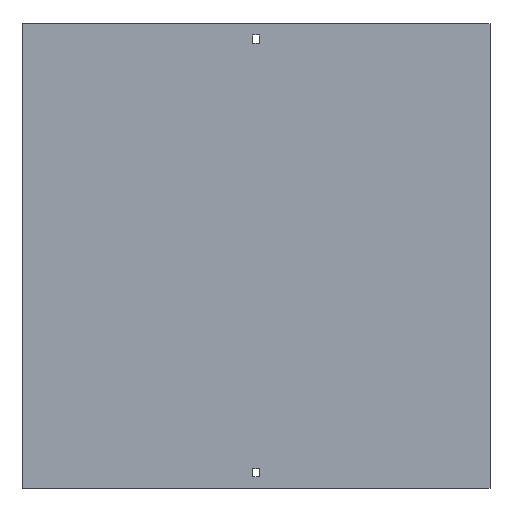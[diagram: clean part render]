
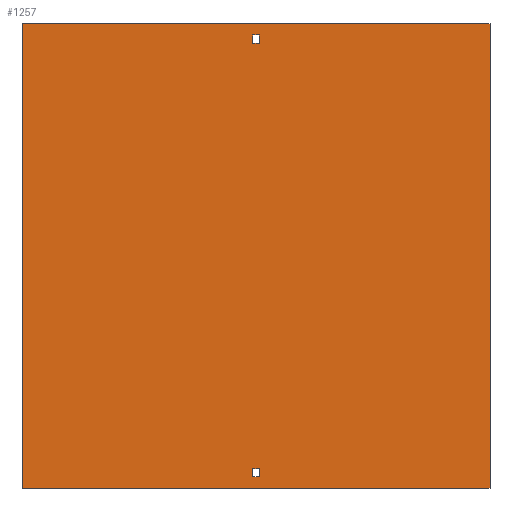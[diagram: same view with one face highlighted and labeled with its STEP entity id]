
A CAD part, front view. The second image highlights one B-rep face of the part: STEP entity #1257.
In plain terms, the highlighted planar face has unit normal (0, -1, 0).
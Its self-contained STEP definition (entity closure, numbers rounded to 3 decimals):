
#17 = VERTEX_POINT ( 'NONE', #1354 ) ;
#19 = CARTESIAN_POINT ( 'NONE',  ( -3.25, 0., 229. ) ) ;
#33 = VERTEX_POINT ( 'NONE', #1608 ) ;
#50 = EDGE_CURVE ( 'NONE', #1470, #1179, #1107, .T. ) ;
#66 = LINE ( 'NONE', #715, #1154 ) ;
#79 = VECTOR ( 'NONE', #1216, 1000. ) ;
#113 = VERTEX_POINT ( 'NONE', #1636 ) ;
#134 = ORIENTED_EDGE ( 'NONE', *, *, #50, .T. ) ;
#138 = DIRECTION ( 'NONE',  ( -1., 0., 0. ) ) ;
#150 = PLANE ( 'NONE',  #696 ) ;
#157 = ORIENTED_EDGE ( 'NONE', *, *, #985, .F. ) ;
#162 = VECTOR ( 'NONE', #1295, 1000. ) ;
#172 = DIRECTION ( 'NONE',  ( 0., 0., -1. ) ) ;
#188 = VECTOR ( 'NONE', #138, 1000. ) ;
#195 = VERTEX_POINT ( 'NONE', #410 ) ;
#200 = ORIENTED_EDGE ( 'NONE', *, *, #535, .F. ) ;
#220 = DIRECTION ( 'NONE',  ( 0., 0., -1. ) ) ;
#222 = VERTEX_POINT ( 'NONE', #886 ) ;
#230 = CARTESIAN_POINT ( 'NONE',  ( -252., 0., 250. ) ) ;
#235 = EDGE_CURVE ( 'NONE', #1179, #113, #383, .T. ) ;
#243 = DIRECTION ( 'NONE',  ( -1., 0., 0. ) ) ;
#269 = VECTOR ( 'NONE', #220, 1000. ) ;
#270 = ORIENTED_EDGE ( 'NONE', *, *, #1557, .F. ) ;
#285 = EDGE_CURVE ( 'NONE', #17, #983, #1314, .T. ) ;
#296 = CARTESIAN_POINT ( 'NONE',  ( 252., 0., -250. ) ) ;
#341 = ORIENTED_EDGE ( 'NONE', *, *, #1165, .F. ) ;
#357 = CARTESIAN_POINT ( 'NONE',  ( 3.25, 0., -229. ) ) ;
#362 = DIRECTION ( 'NONE',  ( -1., 0., 0. ) ) ;
#383 = LINE ( 'NONE', #528, #728 ) ;
#387 = LINE ( 'NONE', #775, #162 ) ;
#405 = DIRECTION ( 'NONE',  ( 0., 0., -1. ) ) ;
#410 = CARTESIAN_POINT ( 'NONE',  ( 252., 0., 250. ) ) ;
#422 = VERTEX_POINT ( 'NONE', #1525 ) ;
#459 = VECTOR ( 'NONE', #703, 1000. ) ;
#489 = EDGE_CURVE ( 'NONE', #1528, #422, #387, .T. ) ;
#494 = CARTESIAN_POINT ( 'NONE',  ( -3.25, 0., 238. ) ) ;
#498 = LINE ( 'NONE', #756, #1350 ) ;
#499 = CARTESIAN_POINT ( 'NONE',  ( 3.25, 0., -238. ) ) ;
#516 = EDGE_LOOP ( 'NONE', ( #1095, #1395, #134, #922 ) ) ;
#528 = CARTESIAN_POINT ( 'NONE',  ( -3.25, 0., -238. ) ) ;
#535 = EDGE_CURVE ( 'NONE', #222, #1528, #1448, .T. ) ;
#565 = VECTOR ( 'NONE', #405, 1000. ) ;
#603 = EDGE_CURVE ( 'NONE', #33, #1470, #1176, .T. ) ;
#628 = EDGE_LOOP ( 'NONE', ( #200, #664, #157, #894 ) ) ;
#650 = DIRECTION ( 'NONE',  ( 1., 0., 0. ) ) ;
#664 = ORIENTED_EDGE ( 'NONE', *, *, #896, .F. ) ;
#665 = VECTOR ( 'NONE', #172, 1000. ) ;
#696 = AXIS2_PLACEMENT_3D ( 'NONE', #230, #1000, #362 ) ;
#697 = LINE ( 'NONE', #1050, #79 ) ;
#703 = DIRECTION ( 'NONE',  ( 1., 0., 0. ) ) ;
#709 = EDGE_LOOP ( 'NONE', ( #1377, #341, #270, #1414 ) ) ;
#715 = CARTESIAN_POINT ( 'NONE',  ( -252., 0., 250. ) ) ;
#728 = VECTOR ( 'NONE', #243, 1000. ) ;
#753 = CARTESIAN_POINT ( 'NONE',  ( 252., 0., 250. ) ) ;
#756 = CARTESIAN_POINT ( 'NONE',  ( -252., 0., 250. ) ) ;
#775 = CARTESIAN_POINT ( 'NONE',  ( 3.25, 0., 238. ) ) ;
#864 = DIRECTION ( 'NONE',  ( 0., 0., -1. ) ) ;
#886 = CARTESIAN_POINT ( 'NONE',  ( -3.25, 0., 229. ) ) ;
#894 = ORIENTED_EDGE ( 'NONE', *, *, #489, .F. ) ;
#896 = EDGE_CURVE ( 'NONE', #1223, #222, #1052, .T. ) ;
#922 = ORIENTED_EDGE ( 'NONE', *, *, #235, .T. ) ;
#983 = VERTEX_POINT ( 'NONE', #296 ) ;
#985 = EDGE_CURVE ( 'NONE', #422, #1223, #1296, .T. ) ;
#1000 = DIRECTION ( 'NONE',  ( 0., 1., 0. ) ) ;
#1050 = CARTESIAN_POINT ( 'NONE',  ( -3.25, 0., -238. ) ) ;
#1052 = LINE ( 'NONE', #1304, #665 ) ;
#1095 = ORIENTED_EDGE ( 'NONE', *, *, #1413, .T. ) ;
#1106 = VECTOR ( 'NONE', #1324, 1000. ) ;
#1107 = LINE ( 'NONE', #499, #269 ) ;
#1119 = LINE ( 'NONE', #753, #565 ) ;
#1154 = VECTOR ( 'NONE', #864, 1000. ) ;
#1165 = EDGE_CURVE ( 'NONE', #195, #983, #1119, .T. ) ;
#1176 = LINE ( 'NONE', #1188, #1106 ) ;
#1179 = VERTEX_POINT ( 'NONE', #1508 ) ;
#1188 = CARTESIAN_POINT ( 'NONE',  ( -3.25, 0., -229. ) ) ;
#1216 = DIRECTION ( 'NONE',  ( 0., 0., 1. ) ) ;
#1223 = VERTEX_POINT ( 'NONE', #494 ) ;
#1242 = CARTESIAN_POINT ( 'NONE',  ( 3.25, 0., 229. ) ) ;
#1257 = ADVANCED_FACE ( 'NONE', ( #1308, #1390, #1524 ), #150, .F. ) ;
#1266 = DIRECTION ( 'NONE',  ( 1., 0., 0. ) ) ;
#1295 = DIRECTION ( 'NONE',  ( 0., 0., 1. ) ) ;
#1296 = LINE ( 'NONE', #1432, #188 ) ;
#1304 = CARTESIAN_POINT ( 'NONE',  ( -3.25, 0., 238. ) ) ;
#1308 = FACE_OUTER_BOUND ( 'NONE', #709, .T. ) ;
#1314 = LINE ( 'NONE', #1443, #459 ) ;
#1324 = DIRECTION ( 'NONE',  ( 1., 0., 0. ) ) ;
#1350 = VECTOR ( 'NONE', #1266, 1000. ) ;
#1354 = CARTESIAN_POINT ( 'NONE',  ( -252., 0., -250. ) ) ;
#1377 = ORIENTED_EDGE ( 'NONE', *, *, #285, .T. ) ;
#1390 = FACE_BOUND ( 'NONE', #628, .T. ) ;
#1395 = ORIENTED_EDGE ( 'NONE', *, *, #603, .T. ) ;
#1413 = EDGE_CURVE ( 'NONE', #113, #33, #697, .T. ) ;
#1414 = ORIENTED_EDGE ( 'NONE', *, *, #1467, .T. ) ;
#1432 = CARTESIAN_POINT ( 'NONE',  ( -3.25, 0., 238. ) ) ;
#1443 = CARTESIAN_POINT ( 'NONE',  ( -252., 0., -250. ) ) ;
#1448 = LINE ( 'NONE', #19, #1452 ) ;
#1452 = VECTOR ( 'NONE', #650, 1000. ) ;
#1467 = EDGE_CURVE ( 'NONE', #1670, #17, #66, .T. ) ;
#1470 = VERTEX_POINT ( 'NONE', #357 ) ;
#1508 = CARTESIAN_POINT ( 'NONE',  ( 3.25, 0., -238. ) ) ;
#1524 = FACE_BOUND ( 'NONE', #516, .T. ) ;
#1525 = CARTESIAN_POINT ( 'NONE',  ( 3.25, 0., 238. ) ) ;
#1528 = VERTEX_POINT ( 'NONE', #1242 ) ;
#1557 = EDGE_CURVE ( 'NONE', #1670, #195, #498, .T. ) ;
#1584 = CARTESIAN_POINT ( 'NONE',  ( -252., 0., 250. ) ) ;
#1608 = CARTESIAN_POINT ( 'NONE',  ( -3.25, 0., -229. ) ) ;
#1636 = CARTESIAN_POINT ( 'NONE',  ( -3.25, 0., -238. ) ) ;
#1670 = VERTEX_POINT ( 'NONE', #1584 ) ;
